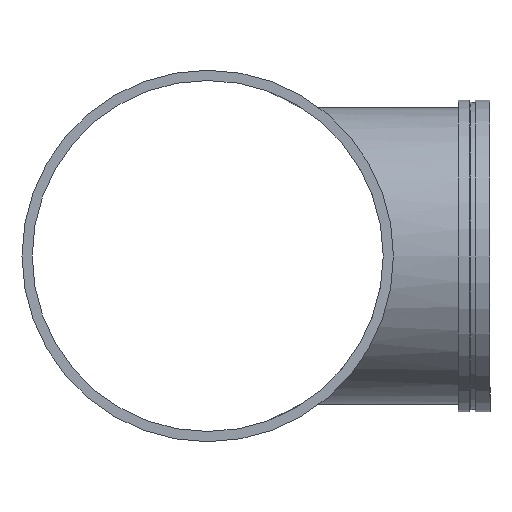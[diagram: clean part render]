
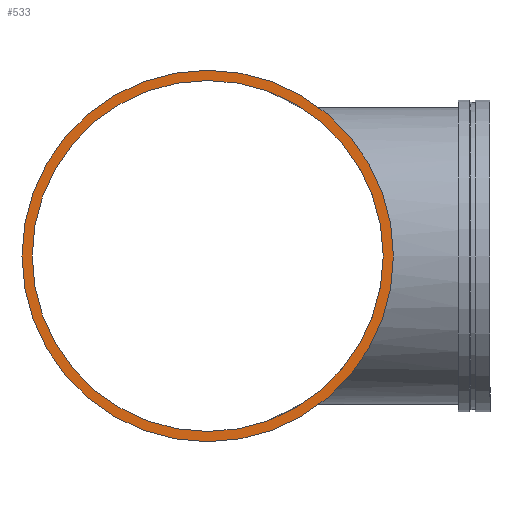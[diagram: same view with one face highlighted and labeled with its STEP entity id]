
A CAD part, left-side view. The second image highlights one B-rep face of the part: STEP entity #533.
In plain terms, the highlighted planar face has unit normal (-1, 0, 0).
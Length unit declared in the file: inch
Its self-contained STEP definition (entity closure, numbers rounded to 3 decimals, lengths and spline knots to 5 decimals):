
#58=FACE_BOUND('',#128,.T.);
#67=PLANE('',#626);
#92=FACE_OUTER_BOUND('',#127,.T.);
#127=EDGE_LOOP('',(#465,#466));
#128=EDGE_LOOP('',(#467,#468));
#151=CIRCLE('',#587,25.);
#152=CIRCLE('',#588,25.);
#175=CIRCLE('',#624,23.625);
#176=CIRCLE('',#625,23.625);
#239=VERTEX_POINT('',#1145);
#240=VERTEX_POINT('',#1147);
#263=VERTEX_POINT('',#1214);
#264=VERTEX_POINT('',#1216);
#299=EDGE_CURVE('',#239,#240,#151,.T.);
#300=EDGE_CURVE('',#240,#239,#152,.T.);
#331=EDGE_CURVE('',#264,#263,#175,.T.);
#332=EDGE_CURVE('',#263,#264,#176,.T.);
#465=ORIENTED_EDGE('',*,*,#300,.F.);
#466=ORIENTED_EDGE('',*,*,#299,.F.);
#467=ORIENTED_EDGE('',*,*,#331,.T.);
#468=ORIENTED_EDGE('',*,*,#332,.T.);
#533=ADVANCED_FACE('',(#92,#58),#67,.T.);
#587=AXIS2_PLACEMENT_3D('',#1148,#716,#717);
#588=AXIS2_PLACEMENT_3D('',#1149,#718,#719);
#624=AXIS2_PLACEMENT_3D('',#1217,#798,#799);
#625=AXIS2_PLACEMENT_3D('',#1218,#800,#801);
#626=AXIS2_PLACEMENT_3D('',#1219,#802,#803);
#716=DIRECTION('center_axis',(1.,0.,0.));
#717=DIRECTION('ref_axis',(0.,0.,1.));
#718=DIRECTION('center_axis',(1.,0.,0.));
#719=DIRECTION('ref_axis',(0.,0.,1.));
#798=DIRECTION('center_axis',(1.,0.,0.));
#799=DIRECTION('ref_axis',(0.,0.,1.));
#800=DIRECTION('center_axis',(1.,0.,0.));
#801=DIRECTION('ref_axis',(0.,0.,1.));
#802=DIRECTION('center_axis',(-1.,0.,0.));
#803=DIRECTION('ref_axis',(0.,0.,-1.));
#1145=CARTESIAN_POINT('',(-41.,25.,0.));
#1147=CARTESIAN_POINT('',(-41.,-25.,0.));
#1148=CARTESIAN_POINT('Origin',(-41.,0.,0.));
#1149=CARTESIAN_POINT('Origin',(-41.,0.,0.));
#1214=CARTESIAN_POINT('',(-41.,23.625,0.));
#1216=CARTESIAN_POINT('',(-41.,-23.625,0.));
#1217=CARTESIAN_POINT('Origin',(-41.,0.,0.));
#1218=CARTESIAN_POINT('Origin',(-41.,0.,0.));
#1219=CARTESIAN_POINT('Origin',(-41.,-25.,0.));
